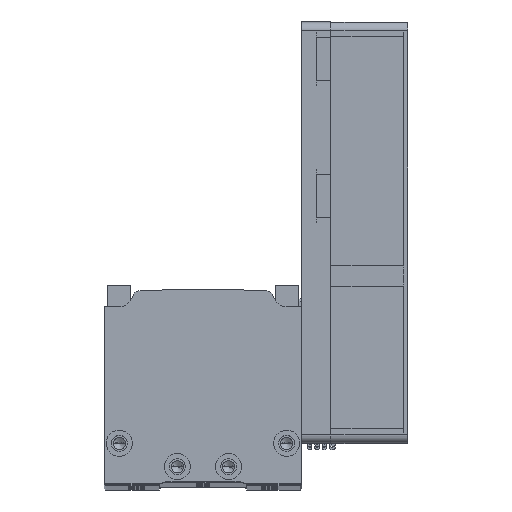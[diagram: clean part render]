
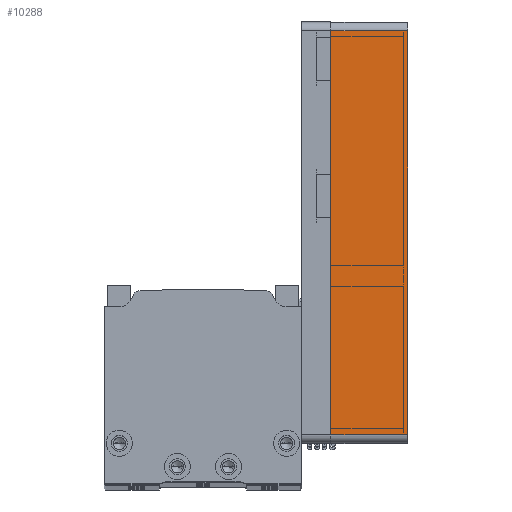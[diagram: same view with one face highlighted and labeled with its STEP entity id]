
A CAD part, top view. The second image highlights one B-rep face of the part: STEP entity #10288.
In plain terms, the highlighted planar face has unit normal (0, 0, 1) as drawn and (0, 1, 0) by its records, which use the part's own axes.
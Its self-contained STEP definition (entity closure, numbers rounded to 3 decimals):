
#209 = FACE_OUTER_BOUND ( 'NONE', #26459, .T. ) ;
#488 = DIRECTION ( 'NONE',  ( -1., 0., 0. ) ) ;
#704 = VECTOR ( 'NONE', #47464, 1000. ) ;
#6521 = EDGE_CURVE ( 'NONE', #29062, #26348, #41853, .T. ) ;
#7952 = PLANE ( 'NONE',  #37972 ) ;
#8389 = LINE ( 'NONE', #45421, #27690 ) ;
#9002 = CARTESIAN_POINT ( 'NONE',  ( -69.5, 30., 0. ) ) ;
#10288 = ADVANCED_FACE ( 'NONE', ( #209 ), #7952, .F. ) ;
#10512 = CARTESIAN_POINT ( 'NONE',  ( 69.5, 30., 26.5 ) ) ;
#10802 = LINE ( 'NONE', #10512, #41786 ) ;
#10846 = EDGE_CURVE ( 'NONE', #38607, #29062, #27291, .T. ) ;
#11586 = CARTESIAN_POINT ( 'NONE',  ( 72.5, 30., 26.5 ) ) ;
#11747 = DIRECTION ( 'NONE',  ( 1., 0., 0. ) ) ;
#12219 = CARTESIAN_POINT ( 'NONE',  ( 72.5, 30., 0. ) ) ;
#14051 = EDGE_CURVE ( 'NONE', #39506, #26348, #8389, .T. ) ;
#14366 = ORIENTED_EDGE ( 'NONE', *, *, #10846, .T. ) ;
#18229 = EDGE_CURVE ( 'NONE', #39506, #38607, #10802, .T. ) ;
#23334 = ORIENTED_EDGE ( 'NONE', *, *, #18229, .T. ) ;
#26348 = VERTEX_POINT ( 'NONE', #37915 ) ;
#26459 = EDGE_LOOP ( 'NONE', ( #14366, #27642, #40485, #23334 ) ) ;
#27291 = LINE ( 'NONE', #12219, #46636 ) ;
#27642 = ORIENTED_EDGE ( 'NONE', *, *, #6521, .T. ) ;
#27690 = VECTOR ( 'NONE', #45596, 1000. ) ;
#29062 = VERTEX_POINT ( 'NONE', #9002 ) ;
#30954 = CARTESIAN_POINT ( 'NONE',  ( 69.5, 30., 0. ) ) ;
#34996 = DIRECTION ( 'NONE',  ( 0., -1., 0. ) ) ;
#37915 = CARTESIAN_POINT ( 'NONE',  ( -69.5, 30., 26.5 ) ) ;
#37972 = AXIS2_PLACEMENT_3D ( 'NONE', #11586, #34996, #11747 ) ;
#38607 = VERTEX_POINT ( 'NONE', #30954 ) ;
#39506 = VERTEX_POINT ( 'NONE', #39666 ) ;
#39666 = CARTESIAN_POINT ( 'NONE',  ( 69.5, 30., 26.5 ) ) ;
#40485 = ORIENTED_EDGE ( 'NONE', *, *, #14051, .F. ) ;
#41728 = DIRECTION ( 'NONE',  ( 0., 0., -1. ) ) ;
#41786 = VECTOR ( 'NONE', #41728, 1000. ) ;
#41853 = LINE ( 'NONE', #47526, #704 ) ;
#45421 = CARTESIAN_POINT ( 'NONE',  ( 72.5, 30., 26.5 ) ) ;
#45596 = DIRECTION ( 'NONE',  ( -1., 0., 0. ) ) ;
#46636 = VECTOR ( 'NONE', #488, 1000. ) ;
#47464 = DIRECTION ( 'NONE',  ( 0., 0., 1. ) ) ;
#47526 = CARTESIAN_POINT ( 'NONE',  ( -69.5, 30., 26.5 ) ) ;
